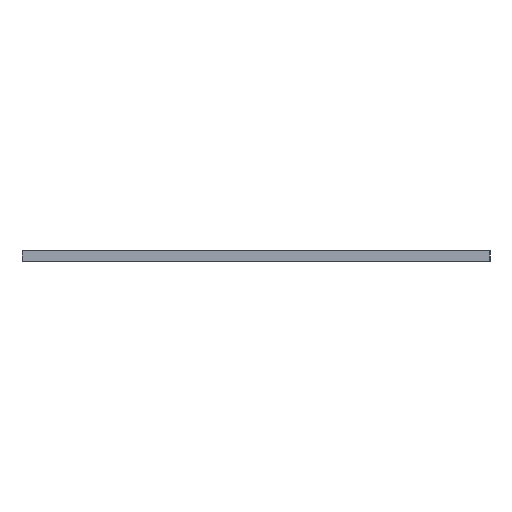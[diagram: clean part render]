
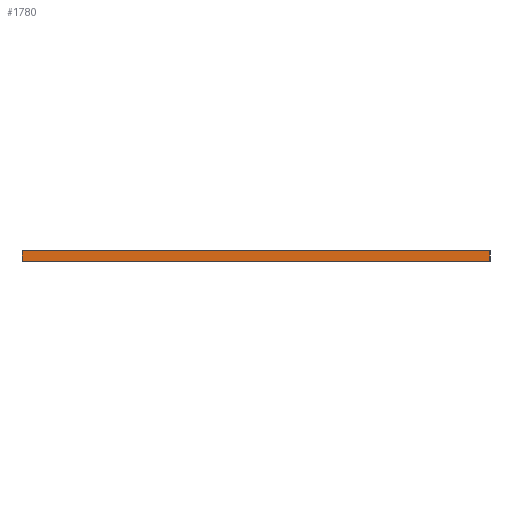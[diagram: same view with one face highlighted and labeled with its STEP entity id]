
A CAD part, left-side view. The second image highlights one B-rep face of the part: STEP entity #1780.
In plain terms, the highlighted planar face has unit normal (-1, 0, 0).
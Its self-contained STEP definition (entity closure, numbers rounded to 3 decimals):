
#134=FACE_OUTER_BOUND('',#216,.T.);
#216=EDGE_LOOP('',(#1455,#1456,#1457,#1458));
#488=LINE('',#2747,#728);
#496=LINE('',#2762,#736);
#497=LINE('',#2764,#737);
#498=LINE('',#2765,#738);
#728=VECTOR('',#2264,10.);
#736=VECTOR('',#2276,10.);
#737=VECTOR('',#2279,10.);
#738=VECTOR('',#2280,10.);
#891=VERTEX_POINT('',#2743);
#893=VERTEX_POINT('',#2746);
#897=VERTEX_POINT('',#2758);
#898=VERTEX_POINT('',#2760);
#1128=EDGE_CURVE('',#891,#893,#488,.T.);
#1136=EDGE_CURVE('',#897,#898,#496,.T.);
#1137=EDGE_CURVE('',#891,#897,#497,.T.);
#1138=EDGE_CURVE('',#893,#898,#498,.T.);
#1455=ORIENTED_EDGE('',*,*,#1137,.T.);
#1456=ORIENTED_EDGE('',*,*,#1136,.T.);
#1457=ORIENTED_EDGE('',*,*,#1138,.F.);
#1458=ORIENTED_EDGE('',*,*,#1128,.F.);
#1698=PLANE('',#1876);
#1780=ADVANCED_FACE('',(#134),#1698,.T.);
#1876=AXIS2_PLACEMENT_3D('',#2763,#2277,#2278);
#2264=DIRECTION('',(0.,0.,1.));
#2276=DIRECTION('',(0.,0.,1.));
#2277=DIRECTION('center_axis',(-1.,0.,0.));
#2278=DIRECTION('ref_axis',(0.,-1.,0.));
#2279=DIRECTION('',(0.,-1.,0.));
#2280=DIRECTION('',(0.,-1.,0.));
#2743=CARTESIAN_POINT('',(-129.,70.,0.));
#2746=CARTESIAN_POINT('',(-129.,70.,3.));
#2747=CARTESIAN_POINT('',(-129.,70.,0.));
#2758=CARTESIAN_POINT('',(-129.,-70.,0.));
#2760=CARTESIAN_POINT('',(-129.,-70.,3.));
#2762=CARTESIAN_POINT('',(-129.,-70.,0.));
#2763=CARTESIAN_POINT('Origin',(-129.,70.,0.));
#2764=CARTESIAN_POINT('',(-129.,70.,0.));
#2765=CARTESIAN_POINT('',(-129.,70.,3.));
